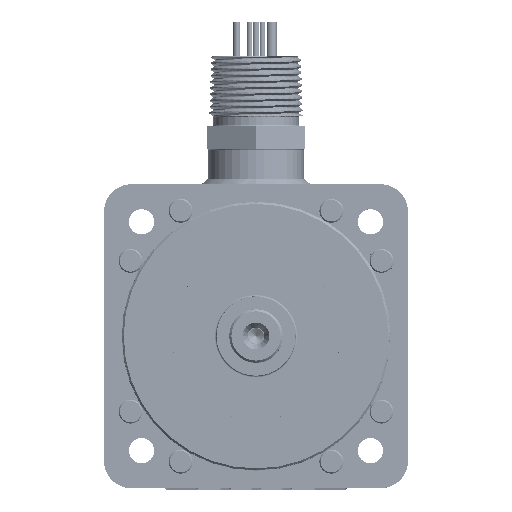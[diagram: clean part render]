
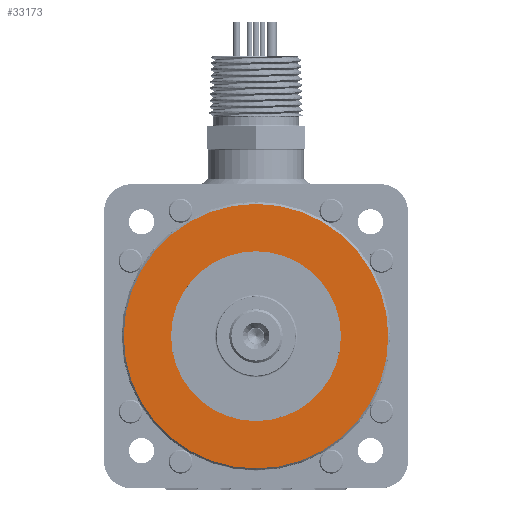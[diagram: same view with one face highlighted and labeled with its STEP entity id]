
A CAD part, top view. The second image highlights one B-rep face of the part: STEP entity #33173.
In plain terms, the highlighted planar face has unit normal (0, 0, 1).
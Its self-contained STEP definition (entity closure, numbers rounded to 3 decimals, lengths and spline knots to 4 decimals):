
#9525 = VERTEX_POINT ( 'NONE', #154334 ) ;
#12495 = AXIS2_PLACEMENT_3D ( 'NONE', #118196, #102422, #101448 ) ;
#24607 = EDGE_LOOP ( 'NONE', ( #109432, #42478 ) ) ;
#26306 = VERTEX_POINT ( 'NONE', #124611 ) ;
#33173 = ADVANCED_FACE ( 'NONE', ( #147841, #182144 ), #85618, .F. ) ;
#38867 = DIRECTION ( 'NONE',  ( 0., 0., 1. ) ) ;
#42478 = ORIENTED_EDGE ( 'NONE', *, *, #110504, .T. ) ;
#49791 = CIRCLE ( 'NONE', #97180, 1.8501 ) ;
#58065 = CARTESIAN_POINT ( 'NONE',  ( 1.188, 0., 0. ) ) ;
#58949 = AXIS2_PLACEMENT_3D ( 'NONE', #128801, #38867, #172342 ) ;
#69166 = CIRCLE ( 'NONE', #179667, 1.8501 ) ;
#72444 = CARTESIAN_POINT ( 'NONE',  ( -1.188, 0., 0. ) ) ;
#85618 = PLANE ( 'NONE',  #12495 ) ;
#89637 = DIRECTION ( 'NONE',  ( 1., 0., 0. ) ) ;
#90748 = AXIS2_PLACEMENT_3D ( 'NONE', #195629, #133362, #105629 ) ;
#91720 = EDGE_CURVE ( 'NONE', #194436, #136584, #119122, .T. ) ;
#92664 = ORIENTED_EDGE ( 'NONE', *, *, #91720, .F. ) ;
#97180 = AXIS2_PLACEMENT_3D ( 'NONE', #132790, #134728, #162467 ) ;
#101448 = DIRECTION ( 'NONE',  ( -1., 0., 0. ) ) ;
#102422 = DIRECTION ( 'NONE',  ( 0., 0., -1. ) ) ;
#105629 = DIRECTION ( 'NONE',  ( 1., 0., 0. ) ) ;
#107365 = DIRECTION ( 'NONE',  ( 0., 0., 1. ) ) ;
#107497 = EDGE_LOOP ( 'NONE', ( #92664, #116860 ) ) ;
#109432 = ORIENTED_EDGE ( 'NONE', *, *, #123819, .T. ) ;
#110504 = EDGE_CURVE ( 'NONE', #9525, #26306, #69166, .T. ) ;
#116860 = ORIENTED_EDGE ( 'NONE', *, *, #145254, .F. ) ;
#118196 = CARTESIAN_POINT ( 'NONE',  ( 0., 1.188, 0. ) ) ;
#119122 = CIRCLE ( 'NONE', #90748, 1.188 ) ;
#123819 = EDGE_CURVE ( 'NONE', #26306, #9525, #49791, .T. ) ;
#124611 = CARTESIAN_POINT ( 'NONE',  ( -1.8501, 0., 0. ) ) ;
#128801 = CARTESIAN_POINT ( 'NONE',  ( 0., 0., 0. ) ) ;
#132790 = CARTESIAN_POINT ( 'NONE',  ( 0., 0., 0. ) ) ;
#133362 = DIRECTION ( 'NONE',  ( 0., 0., 1. ) ) ;
#134728 = DIRECTION ( 'NONE',  ( 0., 0., 1. ) ) ;
#136584 = VERTEX_POINT ( 'NONE', #72444 ) ;
#145254 = EDGE_CURVE ( 'NONE', #136584, #194436, #172653, .T. ) ;
#147841 = FACE_BOUND ( 'NONE', #107497, .T. ) ;
#151860 = CARTESIAN_POINT ( 'NONE',  ( 0., 0., 0. ) ) ;
#154334 = CARTESIAN_POINT ( 'NONE',  ( 1.8501, 0., 0. ) ) ;
#162467 = DIRECTION ( 'NONE',  ( 1., 0., 0. ) ) ;
#172342 = DIRECTION ( 'NONE',  ( 1., 0., 0. ) ) ;
#172653 = CIRCLE ( 'NONE', #58949, 1.188 ) ;
#179667 = AXIS2_PLACEMENT_3D ( 'NONE', #151860, #107365, #89637 ) ;
#182144 = FACE_OUTER_BOUND ( 'NONE', #24607, .T. ) ;
#194436 = VERTEX_POINT ( 'NONE', #58065 ) ;
#195629 = CARTESIAN_POINT ( 'NONE',  ( 0., 0., 0. ) ) ;
